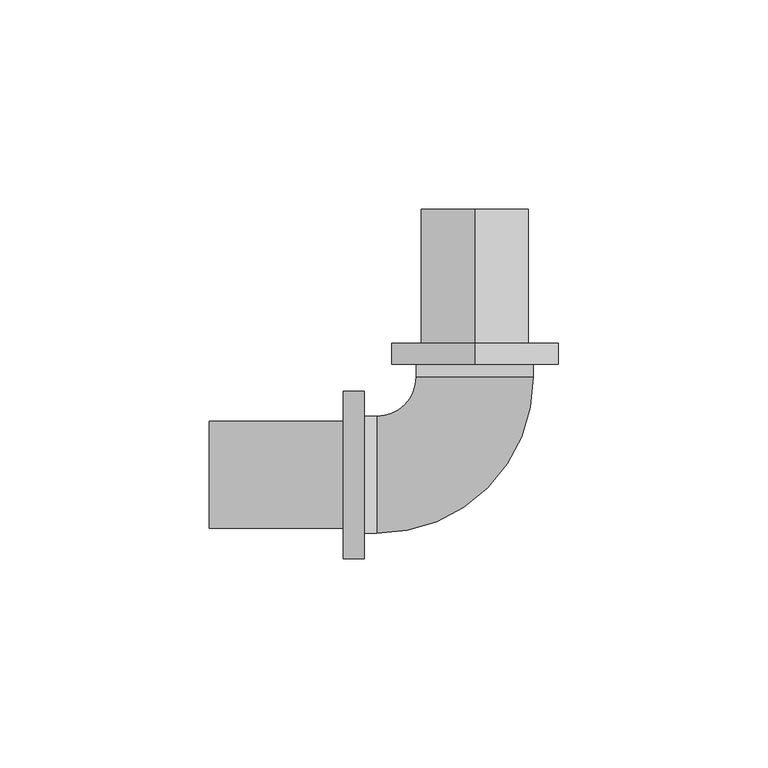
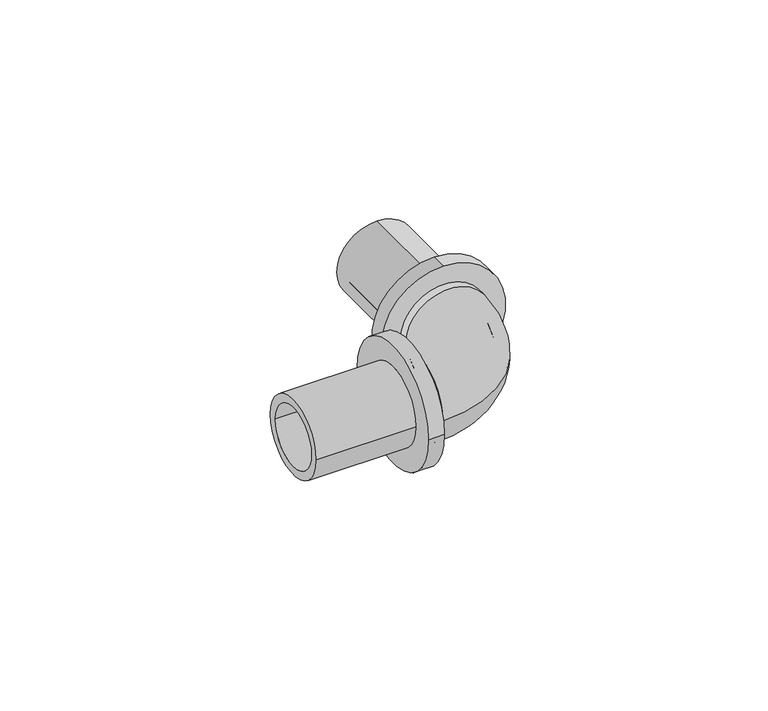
"""IFC4 building model written with IfcOpenShell, lengths in millimetres: pipe fitting geometry, RAUTITAN_Corner_RX+ : RTI RX+ C DN."""

from ifc_helpers import new_model, si_unit, point, frame, origin, place, context, project, spatial, polyline, circle_curve, ellipse_curve, trimmed, source, transform, mapped, element, save
from ifc_brep_helpers import plane_surface, cylinder_surface, revolved_surface, advanced_brep


def pipe_fitting_68c5f3c2(model_context):
    return source(origin(), model_context, "Body", "AdvancedBrep", [
        advanced_brep(
        [(0.0, 31.4, 20.0), (0.0, 31.4, -20.0), (0.0, 26.4, -20.0), (0.0, 26.4, 20.0), (0.0, 63.4, 12.8), (0.0, 63.4, -12.8), (0.0, 31.4, -12.8), (0.0, 31.4, 12.8), (0.0, 26.4, 10.0), (0.0, 26.4, -10.0), (0.0, 63.4, -10.0), (0.0, 63.4, 10.0)],
        [
            (0, 1, circle_curve(frame((0.0, 31.4, 0.0), z_axis=(0.0, -1.0, 0.0), x_axis=(0.0, 0.0, -1.0)), 20.0)),
            (1, 2),
            (2, 3, circle_curve(frame((0.0, 26.4, 0.0), z_axis=(0.0, 1.0, 0.0), x_axis=(0.0, 0.0, -1.0)), 20.0)),
            (3, 0),
            (4, 5, circle_curve(frame((0.0, 63.4, 0.0), z_axis=(0.0, -1.0, 0.0), x_axis=(0.0, 0.0, -1.0)), 12.8)),
            (5, 6),
            (6, 7, circle_curve(frame((0.0, 31.4, 0.0), z_axis=(0.0, 1.0, 0.0), x_axis=(0.0, 0.0, -1.0)), 12.8)),
            (7, 4),
            (8, 9, circle_curve(frame((0.0, 26.4, 0.0), z_axis=(0.0, -1.0, 0.0), x_axis=(0.0, 0.0, -1.0)), 10.0)),
            (9, 10),
            (10, 11, circle_curve(frame((0.0, 63.4, 0.0), z_axis=(0.0, 1.0, 0.0), x_axis=(0.0, 0.0, -1.0)), 10.0)),
            (11, 8),
            (1, 0, circle_curve(frame((0.0, 31.4, 0.0), z_axis=(0.0, -1.0, 0.0), x_axis=(0.0, 0.0, 1.0)), 20.0)),
            (3, 2, circle_curve(frame((0.0, 26.4, 0.0), z_axis=(0.0, 1.0, 0.0), x_axis=(0.0, 0.0, 1.0)), 20.0)),
            (6, 7, circle_curve(frame((0.0, 31.4, 0.0), z_axis=(0.0, -1.0, 0.0), x_axis=(0.0, 0.0, 1.0)), 12.8)),
            (5, 4, circle_curve(frame((0.0, 63.4, 0.0), z_axis=(0.0, -1.0, 0.0), x_axis=(0.0, 0.0, 1.0)), 12.8)),
            (10, 11, circle_curve(frame((0.0, 63.4, 0.0), z_axis=(0.0, -1.0, 0.0), x_axis=(0.0, 0.0, 1.0)), 10.0)),
            (9, 8, circle_curve(frame((0.0, 26.4, 0.0), z_axis=(0.0, -1.0, 0.0), x_axis=(0.0, 0.0, 1.0)), 10.0)),
        ],
        [
            cylinder_surface(frame((0.0, 26.4, 0.0), z_axis=(0.0, 1.0, 0.0), x_axis=(0.0, 0.0, -1.0)), 20.0),
            cylinder_surface(frame((0.0, 26.4, 0.0), z_axis=(0.0, 1.0, 0.0), x_axis=(0.0, 0.0, -1.0)), 12.8),
            revolved_surface(polyline([(0.0, 63.4, -10.0), (0.0, 26.4, -10.0)]), (0.0, 26.4, 0.0), (0.0, 1.0, 0.0)),
            cylinder_surface(frame((0.0, 26.4, 0.0), z_axis=(0.0, 1.0, 0.0), x_axis=(0.0, 0.0, 1.0)), 20.0),
            plane_surface(frame((0.0, 31.4, 0.0), z_axis=(0.0, 1.0, 0.0), x_axis=(0.0, 0.0, 1.0))),
            cylinder_surface(frame((0.0, 26.4, 0.0), z_axis=(0.0, 1.0, 0.0), x_axis=(0.0, 0.0, 1.0)), 12.8),
            plane_surface(frame((0.0, 63.4, 0.0), z_axis=(0.0, 1.0, 0.0), x_axis=(0.0, 0.0, 1.0))),
            revolved_surface(polyline([(0.0, 63.4, 10.0), (0.0, 26.4, 10.0)]), (0.0, 26.4, 0.0), (0.0, 1.0, 0.0)),
            plane_surface(frame((0.0, 26.4, 0.0), z_axis=(0.0, -1.0, 0.0), x_axis=(0.0, 0.0, 1.0))),
        ],
        [
            (0, [[1, 2, 3, 4]]),
            (1, [[5, 6, 7, 8]]),
            (2, [[9, 10, 11, 12]]),
            (3, [[13, -4, 14, -2]]),
            (4, [[-13, -1], [15, -7]]),
            (5, [[16, -8, -15, -6]]),
            (6, [[-16, -5], [17, -11]]),
            (7, [[18, -12, -17, -10]]),
            (8, [[-14, -3], [-18, -9]]),
        ],
    ),
        advanced_brep(
        [(-31.4, -20.0, 0.0), (-31.4, 20.0, 0.0), (-26.4, 20.0, 0.0), (-26.4, -20.0, 0.0), (-63.4, -12.8, 0.0), (-63.4, 12.8, 0.0), (-31.4, 12.8, 0.0), (-31.4, -12.8, 0.0), (-26.4, -10.0, 0.0), (-26.4, 10.0, 0.0), (-63.4, 10.0, 0.0), (-63.4, -10.0, 0.0)],
        [
            (0, 1, circle_curve(frame((-31.4, 0.0, 0.0), z_axis=(1.0, 0.0, 0.0), x_axis=(0.0, 1.0, 0.0)), 20.0)),
            (1, 2),
            (2, 3, circle_curve(frame((-26.4, 0.0, 0.0), z_axis=(-1.0, 0.0, 0.0), x_axis=(0.0, 1.0, 0.0)), 20.0)),
            (3, 0),
            (4, 5, circle_curve(frame((-63.4, 0.0, 0.0), z_axis=(1.0, 0.0, 0.0), x_axis=(0.0, 1.0, 0.0)), 12.8)),
            (5, 6),
            (6, 7, circle_curve(frame((-31.4, 0.0, 0.0), z_axis=(-1.0, 0.0, 0.0), x_axis=(0.0, 1.0, 0.0)), 12.8)),
            (7, 4),
            (8, 9, circle_curve(frame((-26.4, 0.0, 0.0), z_axis=(1.0, 0.0, 0.0), x_axis=(0.0, 1.0, 0.0)), 10.0)),
            (9, 10),
            (10, 11, circle_curve(frame((-63.4, 0.0, 0.0), z_axis=(-1.0, 0.0, 0.0), x_axis=(0.0, 1.0, 0.0)), 10.0)),
            (11, 8),
            (1, 0, circle_curve(frame((-31.4, 0.0, 0.0), z_axis=(1.0, 0.0, 0.0), x_axis=(0.0, -1.0, 0.0)), 20.0)),
            (3, 2, circle_curve(frame((-26.4, 0.0, 0.0), z_axis=(-1.0, 0.0, 0.0), x_axis=(0.0, -1.0, 0.0)), 20.0)),
            (6, 7, circle_curve(frame((-31.4, 0.0, 0.0), z_axis=(1.0, 0.0, 0.0), x_axis=(0.0, -1.0, 0.0)), 12.8)),
            (5, 4, circle_curve(frame((-63.4, 0.0, 0.0), z_axis=(1.0, 0.0, 0.0), x_axis=(0.0, -1.0, 0.0)), 12.8)),
            (10, 11, circle_curve(frame((-63.4, 0.0, 0.0), z_axis=(1.0, 0.0, 0.0), x_axis=(0.0, -1.0, 0.0)), 10.0)),
            (9, 8, circle_curve(frame((-26.4, 0.0, 0.0), z_axis=(1.0, 0.0, 0.0), x_axis=(0.0, -1.0, 0.0)), 10.0)),
        ],
        [
            cylinder_surface(frame((-26.4, 0.0, 0.0), z_axis=(-1.0, 0.0, 0.0), x_axis=(0.0, 1.0, 0.0)), 20.0),
            cylinder_surface(frame((-26.4, 0.0, 0.0), z_axis=(-1.0, 0.0, 0.0), x_axis=(0.0, 1.0, 0.0)), 12.8),
            revolved_surface(polyline([(-63.4, 10.0, 0.0), (-26.4, 10.0, 0.0)]), (-26.4, 0.0, 0.0), (-1.0, 0.0, 0.0)),
            cylinder_surface(frame((-26.4, 0.0, 0.0), z_axis=(-1.0, 0.0, 0.0), x_axis=(0.0, -1.0, 0.0)), 20.0),
            plane_surface(frame((-31.4, 0.0, 0.0), z_axis=(-1.0, 0.0, 0.0), x_axis=(0.0, -1.0, 0.0))),
            cylinder_surface(frame((-26.4, 0.0, 0.0), z_axis=(-1.0, 0.0, 0.0), x_axis=(0.0, -1.0, 0.0)), 12.8),
            plane_surface(frame((-63.4, 0.0, 0.0), z_axis=(-1.0, 0.0, 0.0), x_axis=(0.0, -1.0, 0.0))),
            revolved_surface(polyline([(-63.4, -10.0, 0.0), (-26.4, -10.0, 0.0)]), (-26.4, 0.0, 0.0), (-1.0, 0.0, 0.0)),
            plane_surface(frame((-26.4, 0.0, 0.0), z_axis=(1.0, 0.0, 0.0), x_axis=(0.0, -1.0, 0.0))),
        ],
        [
            (0, [[1, 2, 3, 4]]),
            (1, [[5, 6, 7, 8]]),
            (2, [[9, 10, 11, 12]]),
            (3, [[13, -4, 14, -2]]),
            (4, [[-13, -1], [15, -7]]),
            (5, [[16, -8, -15, -6]]),
            (6, [[-16, -5], [17, -11]]),
            (7, [[18, -12, -17, -10]]),
            (8, [[-14, -3], [-18, -9]]),
        ],
    ),
        advanced_brep(
        [(-26.4, 14.0, 0.0), (-26.4, -14.0, 0.0), (-26.4, 10.0, 0.0), (-26.4, -10.0, 0.0), (-23.4, -10.0, 0.0), (-23.4, 0.0, -10.0), (-23.4, 10.0, 0.0), (-23.4, 0.0, 10.0), (-23.4, -14.0, 0.0), (-23.4, 14.0, 0.0), (14.0, 26.4, 0.0), (-14.0, 26.4, 0.0), (10.0, 26.4, 0.0), (-10.0, 26.4, 0.0), (-10.0, 23.4, 0.0), (0.0, 23.4, -10.0), (10.0, 23.4, 0.0), (0.0, 23.4, 10.0), (-14.0, 23.4, 0.0), (14.0, 23.4, 0.0)],
        [
            (0, 1, circle_curve(frame((-26.4, 0.0, 0.0), z_axis=(-1.0, 0.0, 0.0), x_axis=(0.0, -1.0, 0.0)), 14.0)),
            (1, 0, circle_curve(frame((-26.4, 0.0, 0.0), z_axis=(-1.0, 0.0, 0.0), x_axis=(0.0, -1.0, 0.0)), 14.0)),
            (2, 3, circle_curve(frame((-26.4, 0.0, 0.0), z_axis=(1.0, 0.0, 0.0), x_axis=(0.0, -1.0, 0.0)), 10.0)),
            (3, 2, circle_curve(frame((-26.4, 0.0, 0.0), z_axis=(1.0, 0.0, 0.0), x_axis=(0.0, -1.0, 0.0)), 10.0)),
            (3, 4),
            (4, 5, circle_curve(frame((-23.4, 0.0, 0.0), z_axis=(1.0, 0.0, 0.0), x_axis=(0.0, -1.0, 0.0)), 10.0)),
            (5, 6, circle_curve(frame((-23.4, 0.0, 0.0), z_axis=(1.0, 0.0, 0.0), x_axis=(0.0, -1.0, 0.0)), 10.0)),
            (6, 2),
            (6, 7, circle_curve(frame((-23.4, 0.0, 0.0), z_axis=(1.0, 0.0, 0.0), x_axis=(0.0, -1.0, 0.0)), 10.0)),
            (7, 4, circle_curve(frame((-23.4, 0.0, 0.0), z_axis=(1.0, 0.0, 0.0), x_axis=(0.0, -1.0, 0.0)), 10.0)),
            (1, 8),
            (8, 9, circle_curve(frame((-23.4, 0.0, 0.0), z_axis=(-1.0, 0.0, 0.0), x_axis=(0.0, -1.0, 0.0)), 14.0)),
            (9, 0),
            (9, 8, circle_curve(frame((-23.4, 0.0, 0.0), z_axis=(-1.0, 0.0, 0.0), x_axis=(0.0, -1.0, 0.0)), 14.0)),
            (10, 11, circle_curve(frame((0.0, 26.4, 0.0), z_axis=(0.0, 1.0, 0.0), x_axis=(-1.0, 0.0, 0.0)), 14.0)),
            (11, 10, circle_curve(frame((0.0, 26.4, 0.0), z_axis=(0.0, 1.0, 0.0), x_axis=(-1.0, 0.0, 0.0)), 14.0)),
            (12, 13, circle_curve(frame((0.0, 26.4, 0.0), z_axis=(0.0, -1.0, 0.0), x_axis=(-1.0, 0.0, 0.0)), 10.0)),
            (13, 12, circle_curve(frame((0.0, 26.4, 0.0), z_axis=(0.0, -1.0, 0.0), x_axis=(-1.0, 0.0, 0.0)), 10.0)),
            (13, 14),
            (14, 15, circle_curve(frame((0.0, 23.4, 0.0), z_axis=(0.0, -1.0, 0.0), x_axis=(-1.0, 0.0, 0.0)), 10.0)),
            (15, 16, circle_curve(frame((0.0, 23.4, 0.0), z_axis=(0.0, -1.0, 0.0), x_axis=(-1.0, 0.0, 0.0)), 10.0)),
            (16, 12),
            (16, 17, circle_curve(frame((0.0, 23.4, 0.0), z_axis=(0.0, -1.0, 0.0), x_axis=(-1.0, 0.0, 0.0)), 10.0)),
            (17, 14, circle_curve(frame((0.0, 23.4, 0.0), z_axis=(0.0, -1.0, 0.0), x_axis=(-1.0, 0.0, 0.0)), 10.0)),
            (11, 18),
            (18, 19, circle_curve(frame((0.0, 23.4, 0.0), z_axis=(0.0, 1.0, 0.0), x_axis=(-1.0, 0.0, 0.0)), 14.0)),
            (19, 10),
            (19, 18, circle_curve(frame((0.0, 23.4, 0.0), z_axis=(0.0, 1.0, 0.0), x_axis=(-1.0, 0.0, 0.0)), 14.0)),
            (14, 6, circle_curve(frame((-23.4, 23.4, 0.0), z_axis=(0.0, 0.0, -1.0), x_axis=(0.0, -1.0, 0.0)), 13.4)),
            (4, 16, circle_curve(frame((-23.4, 23.4, 0.0), z_axis=(0.0, 0.0, 1.0), x_axis=(0.0, -1.0, 0.0)), 33.4)),
            (18, 9, circle_curve(frame((-23.4, 23.4, 0.0), z_axis=(0.0, 0.0, -1.0), x_axis=(0.0, -1.0, 0.0)), 9.4)),
            (8, 19, circle_curve(frame((-23.4, 23.4, 0.0), z_axis=(0.0, 0.0, 1.0), x_axis=(0.0, -1.0, 0.0)), 37.4)),
        ],
        [
            plane_surface(frame((-26.4, 0.0, 0.0), z_axis=(-1.0, 0.0, 0.0), x_axis=(0.0, 0.0, 1.0))),
            revolved_surface(polyline([(-26.4, -10.0, 0.0), (-23.4, -10.0, 0.0)]), (-23.4, 0.0, 0.0), (-1.0, 0.0, 0.0)),
            cylinder_surface(frame((-23.4, 0.0, 0.0), z_axis=(1.0, 0.0, 0.0), x_axis=(0.0, -1.0, 0.0)), 14.0),
            plane_surface(frame((0.0, 26.4, 0.0), z_axis=(0.0, 1.0, 0.0), x_axis=(0.0, 0.0, 1.0))),
            revolved_surface(polyline([(-10.0, 26.4, 0.0), (-10.0, 23.4, 0.0)]), (0.0, 23.4, 0.0), (0.0, 1.0, 0.0)),
            cylinder_surface(frame((0.0, 23.4, 0.0), z_axis=(0.0, -1.0, 0.0), x_axis=(-1.0, 0.0, 0.0)), 14.0),
            revolved_surface(trimmed(ellipse_curve(frame((-23.4, 0.0, 0.0), z_axis=(1.0, 0.0, 0.0), x_axis=(0.0, 1.0, 0.0)), 10.0, 10.0), [point((-23.4, -10.0, 0.0))], [point((-23.4, 10.0, 0.0))], True, "CARTESIAN"), (-23.4, 23.4, 0.0), (0.0, 0.0, 1.0)),
            revolved_surface(trimmed(ellipse_curve(frame((-23.4, 0.0, 0.0), z_axis=(1.0, 0.0, 0.0), x_axis=(0.0, 1.0, 0.0)), 10.0, 10.0), [point((-23.4, 10.0, 0.0))], [point((-23.4, -10.0, 0.0))], True, "CARTESIAN"), (-23.4, 23.4, 0.0), (0.0, 0.0, 1.0)),
            revolved_surface(trimmed(ellipse_curve(frame((-23.4, 0.0, 0.0), z_axis=(-1.0, 0.0, 0.0), x_axis=(0.0, 1.0, 0.0)), 14.0, 14.0), [point((-23.4, -14.0, 0.0))], [point((-23.4, 14.0, 0.0))], True, "CARTESIAN"), (-23.4, 23.4, 0.0), (0.0, 0.0, 1.0)),
            revolved_surface(trimmed(ellipse_curve(frame((-23.4, 0.0, 0.0), z_axis=(-1.0, 0.0, 0.0), x_axis=(0.0, 1.0, 0.0)), 14.0, 14.0), [point((-23.4, 14.0, 0.0))], [point((-23.4, -14.0, 0.0))], True, "CARTESIAN"), (-23.4, 23.4, 0.0), (0.0, 0.0, 1.0)),
        ],
        [
            (0, [[1, 2], [3, 4]]),
            (1, [[-4, 5, 6, 7, 8]]),
            (1, [[-3, -8, 9, 10, -5]]),
            (2, [[-2, 11, 12, 13]]),
            (2, [[-1, -13, 14, -11]]),
            (3, [[15, 16], [17, 18]]),
            (4, [[-18, 19, 20, 21, 22]]),
            (4, [[-17, -22, 23, 24, -19]]),
            (5, [[-16, 25, 26, 27]]),
            (5, [[-15, -27, 28, -25]]),
            (6, [[29, -7, -6, 30, -21, -20]]),
            (7, [[-29, -24, -23, -30, -10, -9]]),
            (8, [[31, -12, 32, -26]]),
            (9, [[-31, -28, -32, -14]]),
        ],
    ),
    ])


if __name__ == "__main__":
    model = new_model("IFC4")
    model_context = context("Model", 3, world=origin())
    ifc_project = project(units=[si_unit("LENGTHUNIT", "METRE", prefix="MILLI")], contexts=[model_context])
    site = spatial("IfcSite", under=ifc_project)
    building = spatial("IfcBuilding", under=site)
    placement = place(None, origin())
    pipe_fitting_shape = pipe_fitting_68c5f3c2(model_context)
    element("IfcPipeFitting", 1, ObjectType="RAUTITAN_Corner_RX+ : RTI RX+ C DN", at=placement, inside=building, context=model_context, shape_type="MappedRepresentation", body=[
        mapped(pipe_fitting_shape, transform((0.0, 0.0, 0.0), x_axis=(1.0, 0.0, 0.0), y_axis=(0.0, 1.0, 0.0), z_axis=(0.0, 0.0, 1.0))),
    ])
    save(model, "model.ifc")
